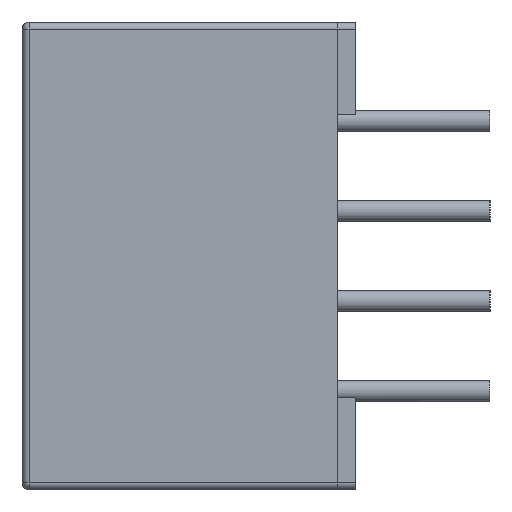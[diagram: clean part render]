
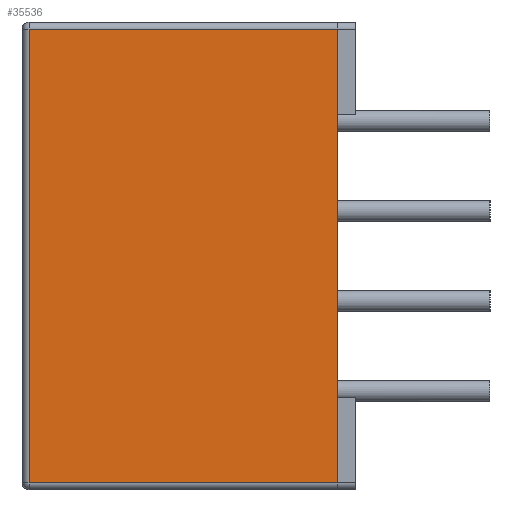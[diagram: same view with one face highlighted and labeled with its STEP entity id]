
A CAD part, left-side view. The second image highlights one B-rep face of the part: STEP entity #35536.
In plain terms, the highlighted planar face has unit normal (-1, 0, 0).
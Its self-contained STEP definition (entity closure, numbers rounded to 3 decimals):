
#7 = ORIENTED_EDGE ( 'NONE', *, *, #34299, .T. ) ;
#10 = ORIENTED_EDGE ( 'NONE', *, *, #14, .T. ) ;
#14 = EDGE_CURVE ( 'NONE', #15, #34343, #13708, .T. ) ;
#15 = VERTEX_POINT ( 'NONE', #13704 ) ;
#4933 = CARTESIAN_POINT ( 'NONE',  ( -14.5, 0., 4. ) ) ;
#4941 = DIRECTION ( 'NONE',  ( 0., 0., 1. ) ) ;
#4942 = VECTOR ( 'NONE', #4941, 1000. ) ;
#4943 = CARTESIAN_POINT ( 'NONE',  ( -14.5, 0., 6.6 ) ) ;
#4944 = LINE ( 'NONE', #4943, #4942 ) ;
#5079 = CARTESIAN_POINT ( 'NONE',  ( -14.5, 0., -4. ) ) ;
#8553 = CARTESIAN_POINT ( 'NONE',  ( -14.497, 8.69, 6.397 ) ) ;
#8554 = DIRECTION ( 'NONE',  ( 0., -1., 0. ) ) ;
#8555 = VECTOR ( 'NONE', #8554, 1000. ) ;
#8556 = CARTESIAN_POINT ( 'NONE',  ( -14.5, 0.005, -6.4 ) ) ;
#8557 = LINE ( 'NONE', #8556, #8555 ) ;
#8562 = CARTESIAN_POINT ( 'NONE',  ( -14.497, 8.69, -6.397 ) ) ;
#8629 = DIRECTION ( 'NONE',  ( 0., 0., -1. ) ) ;
#8630 = VECTOR ( 'NONE', #8629, 1000. ) ;
#8631 = CARTESIAN_POINT ( 'NONE',  ( -14.497, 8.69, -6.597 ) ) ;
#8632 = LINE ( 'NONE', #8631, #8630 ) ;
#8645 = LINE ( 'NONE', #8716, #8715 ) ;
#8646 = DIRECTION ( 'NONE',  ( 0., -1., 0. ) ) ;
#8647 = DIRECTION ( 'NONE',  ( -1., 0., 0. ) ) ;
#8648 = CARTESIAN_POINT ( 'NONE',  ( -14.5, 0., 6.6 ) ) ;
#8649 = AXIS2_PLACEMENT_3D ( 'NONE', #8648, #8647, #8646 ) ;
#8650 = PLANE ( 'NONE',  #8649 ) ;
#8651 = FACE_OUTER_BOUND ( 'NONE', #35492, .T. ) ;
#8701 = DIRECTION ( 'NONE',  ( 0., 1., 0. ) ) ;
#8702 = VECTOR ( 'NONE', #8701, 1000. ) ;
#8703 = CARTESIAN_POINT ( 'NONE',  ( -14.5, 0., 6.4 ) ) ;
#8704 = LINE ( 'NONE', #8703, #8702 ) ;
#8709 = CARTESIAN_POINT ( 'NONE',  ( -14.5, 0., 6.4 ) ) ;
#8714 = DIRECTION ( 'NONE',  ( 0., 0., 1. ) ) ;
#8715 = VECTOR ( 'NONE', #8714, 1000. ) ;
#8716 = CARTESIAN_POINT ( 'NONE',  ( -14.5, 0., 6.6 ) ) ;
#13704 = CARTESIAN_POINT ( 'NONE',  ( -14.5, 0., -6.4 ) ) ;
#13705 = DIRECTION ( 'NONE',  ( 0., 0., 1. ) ) ;
#13706 = VECTOR ( 'NONE', #13705, 1000. ) ;
#13707 = CARTESIAN_POINT ( 'NONE',  ( -14.5, 0., 6.6 ) ) ;
#13708 = LINE ( 'NONE', #13707, #13706 ) ;
#34299 = EDGE_CURVE ( 'NONE', #34343, #34306, #4944, .T. ) ;
#34306 = VERTEX_POINT ( 'NONE', #4933 ) ;
#34343 = VERTEX_POINT ( 'NONE', #5079 ) ;
#35460 = VERTEX_POINT ( 'NONE', #8562 ) ;
#35463 = EDGE_CURVE ( 'NONE', #35460, #15, #8557, .T. ) ;
#35467 = ORIENTED_EDGE ( 'NONE', *, *, #35463, .T. ) ;
#35470 = ORIENTED_EDGE ( 'NONE', *, *, #35509, .T. ) ;
#35473 = VERTEX_POINT ( 'NONE', #8553 ) ;
#35492 = EDGE_LOOP ( 'NONE', ( #35470, #35467, #10, #7, #35544, #35556 ) ) ;
#35509 = EDGE_CURVE ( 'NONE', #35473, #35460, #8632, .T. ) ;
#35536 = ADVANCED_FACE ( 'NONE', ( #8651 ), #8650, .T. ) ;
#35544 = ORIENTED_EDGE ( 'NONE', *, *, #35545, .T. ) ;
#35545 = EDGE_CURVE ( 'NONE', #34306, #35548, #8645, .T. ) ;
#35548 = VERTEX_POINT ( 'NONE', #8709 ) ;
#35551 = EDGE_CURVE ( 'NONE', #35548, #35473, #8704, .T. ) ;
#35556 = ORIENTED_EDGE ( 'NONE', *, *, #35551, .T. ) ;
